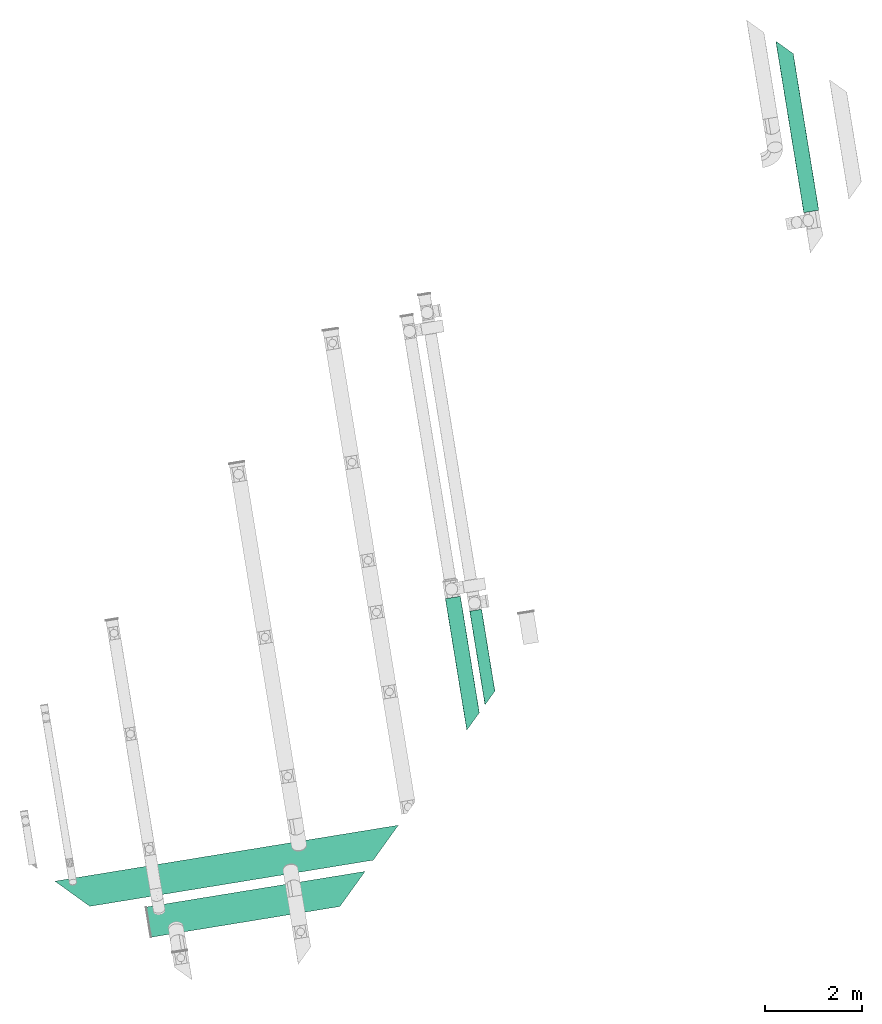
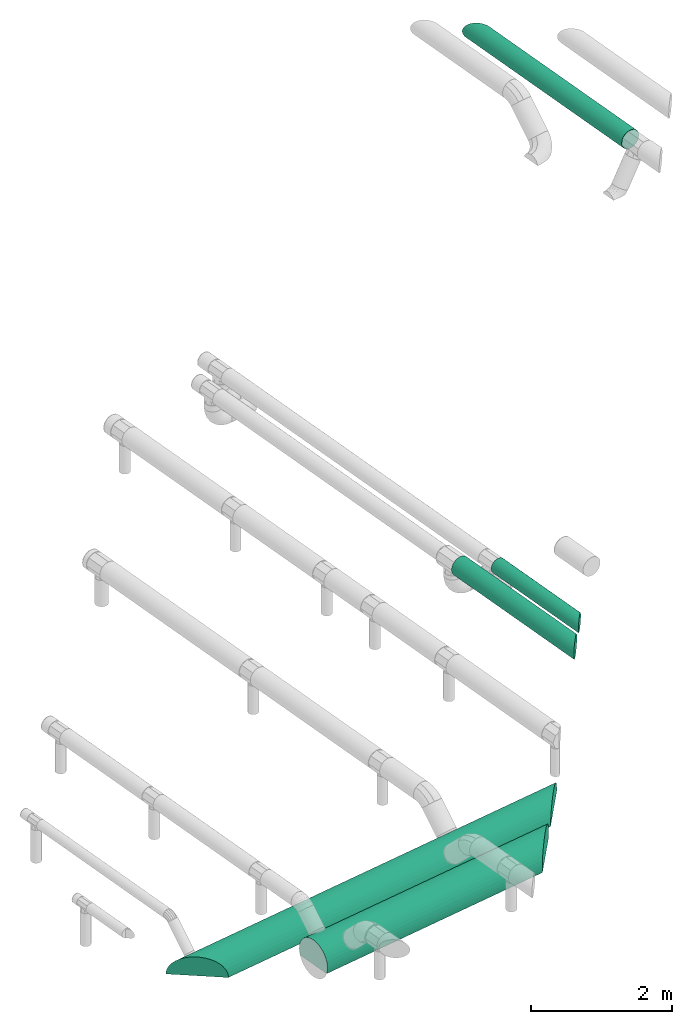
# One storey, part 7 of 15: 5 flow segments.
"""IFC2X3 building model written with IfcOpenShell, lengths in millimetres."""

from ifc_helpers import new_model, entity, si_unit, converted_unit, derived_unit, direction, frame, origin, origin_with_axes, place, context, subcontext, project, spatial, faceted_brep, material, type_object, element, save


model = new_model("IFC2X3")

# Units and contexts
model_context = context("Model", 3, precision=0.01, world=origin(), true_north=direction((6.12323399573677e-17, 1.0)))
plan_context = context("Plan", 3, precision=1e-05, world=origin_with_axes())
body_context = subcontext(model_context, "Body", "Model", "MODEL_VIEW")
ifc_project = project(units=[converted_unit("PLANEANGLEUNIT", "DEGREE", entity("IfcPositiveLengthMeasure", 0.0174532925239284), si_unit("PLANEANGLEUNIT", "RADIAN"), dimensions=[0, 0, 0, 0, 0, 0, 0]), si_unit("AREAUNIT", "SQUARE_METRE"), si_unit("LENGTHUNIT", "METRE", prefix="MILLI"), si_unit("MASSUNIT", "GRAM", prefix="KILO"), si_unit("POWERUNIT", "WATT"), si_unit("PRESSUREUNIT", "PASCAL", prefix="KILO"), si_unit("FORCEUNIT", "NEWTON", prefix="KILO"), si_unit("ELECTRICVOLTAGEUNIT", "VOLT"), si_unit("ELECTRICCURRENTUNIT", "AMPERE"), si_unit("THERMODYNAMICTEMPERATUREUNIT", "DEGREE_CELSIUS"), si_unit("TIMEUNIT", "SECOND"), si_unit("VOLUMEUNIT", "CUBIC_METRE"), derived_unit("LINEARVELOCITYUNIT", [(si_unit("LENGTHUNIT", "METRE"), 1), (si_unit("TIMEUNIT", "SECOND"), -1)]), derived_unit("VOLUMETRICFLOWRATEUNIT", [(si_unit("VOLUMEUNIT", "CUBIC_METRE"), 1), (si_unit("TIMEUNIT", "SECOND"), -1)]), derived_unit("THERMALTRANSMITTANCEUNIT", [(si_unit("POWERUNIT", "WATT"), 1), (si_unit("THERMODYNAMICTEMPERATUREUNIT", "KELVIN"), -1), (si_unit("AREAUNIT", "SQUARE_METRE"), -1)]), derived_unit("SOUNDPRESSUREUNIT", [(si_unit("PRESSUREUNIT", "PASCAL"), 1)])], contexts=[model_context, plan_context])

# Site, building, storey
site_placement = place(None, frame((5.09380697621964e-08, 5.80416781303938e-08, 0.0), z_axis=(0.0, 0.0, 1.0), x_axis=(-0.160806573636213, 0.986985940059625, 0.0)))
site = spatial("IfcSite", under=ifc_project, at=site_placement, Name="Default", CompositionType="ELEMENT")
building_placement = place(site_placement, frame((0.0, 0.0, 0.0), z_axis=(0.0, 0.0, 1.0), x_axis=(1.0, -2.77555756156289e-17, 0.0)))
building = spatial("IfcBuilding", under=site, at=building_placement, Name="Bygning (endres i Project Information)", CompositionType="ELEMENT")
storey_placement = place(building_placement, frame((0.0, 0.0, 51360.0000000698), z_axis=(0.0, 0.0, 1.0), x_axis=(1.0, -2.77555756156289e-17, 0.0)))
storey = spatial("IfcBuildingStorey", under=building, at=storey_placement, Name="H01-Nivå D+0,36", CompositionType="ELEMENT", Elevation=51360.0000000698)

# Flow segments
ifc_material = material(Name="3601.001 Tilluft")
duct_segment_type = type_object("IfcDuctSegmentType", Name="Round Duct:Sirkulær kanal", PredefinedType="NOTDEFINED", material=ifc_material)
flow_segment_1_placement = place(storey_placement, frame((0.0, 0.0, 0.0), z_axis=(0.0, 0.0, 1.0), x_axis=(1.0, -2.77555756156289e-17, 0.0)))
element("IfcFlowSegment", 1, at=flow_segment_1_placement, inside=storey, type_object=duct_segment_type, Name="Round Duct:Sirkulær kanal", ObjectType="Round Duct:Sirkulær kanal", context=body_context, shape_type="Brep", body=[
    faceted_brep([(1010147.91119408, -355524.730863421, 3772.65041197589), (1010150.30397299, -355522.338084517, 3800.0), (1006572.35159129, -355522.338084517, 3800.0), (1006572.35159129, -355524.730863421, 3772.65041197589), (1010147.91119408, -355524.730863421, 3827.34958802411), (1006572.35159129, -355524.730863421, 3827.34958802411), (1010140.80556075, -355531.836496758, 3853.86817265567), (1006572.35159129, -355531.836496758, 3853.86817265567), (1010129.20297405, -355543.439083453, 3878.7500001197), (1006572.35159129, -355543.439083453, 3878.7500001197), (1010113.45597272, -355559.186084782, 3901.23904867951), (1006572.35159129, -355559.186084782, 3901.23904867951), (1010094.04302143, -355578.599036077, 3920.65199997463), (1006572.35159129, -355578.599036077, 3920.65199997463), (1010071.55397287, -355601.088084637, 3936.39900130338), (1006572.35159129, -355601.088084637, 3936.39900130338), (1010046.6721454, -355625.969912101, 3948.00158799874), (1006572.35159129, -355625.969912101, 3948.00158799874), (1010020.15356077, -355652.488496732, 3955.10722133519), (1006572.35159129, -355652.488496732, 3955.10722133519), (1009992.80397275, -355679.838084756, 3957.5000002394), (1006572.35159129, -355679.838084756, 3957.5000002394), (1009965.45438472, -355707.18767278, 3955.10722133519), (1006572.35159129, -355707.18767278, 3955.10722133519), (1009938.93580009, -355733.706257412, 3948.00158799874), (1006572.35159129, -355733.706257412, 3948.00158799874), (1009914.05397263, -355758.588084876, 3936.39900130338), (1006572.35159129, -355758.588084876, 3936.39900130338), (1009891.56492407, -355781.077133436, 3920.65199997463), (1006572.35159129, -355781.077133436, 3920.65199997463), (1009872.15197277, -355800.490084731, 3901.23904867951), (1006572.35159129, -355800.490084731, 3901.23904867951), (1009856.40497144, -355816.23708606, 3878.7500001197), (1006572.35159129, -355816.23708606, 3878.7500001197), (1009844.80238475, -355827.839672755, 3853.86817265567), (1006572.35159129, -355827.839672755, 3853.86817265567), (1009837.69675141, -355834.945306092, 3827.34958802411), (1006572.35159129, -355834.945306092, 3827.34958802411), (1009835.30397251, -355837.338084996, 3800.0), (1006572.35159129, -355837.338084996, 3800.0), (1009837.69675141, -355834.945306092, 3772.65041197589), (1006572.35159129, -355834.945306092, 3772.65041197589), (1009844.80238475, -355827.839672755, 3746.13182734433), (1006572.35159129, -355827.839672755, 3746.13182734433), (1009856.40497144, -355816.23708606, 3721.2499998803), (1006572.35159129, -355816.23708606, 3721.2499998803), (1009872.15197277, -355800.490084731, 3698.76095132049), (1006572.35159129, -355800.490084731, 3698.76095132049), (1009891.56492407, -355781.077133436, 3679.34800002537), (1006572.35159129, -355781.077133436, 3679.34800002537), (1009914.05397263, -355758.588084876, 3663.60099869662), (1006572.35159129, -355758.588084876, 3663.60099869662), (1009938.93580009, -355733.706257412, 3651.99841200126), (1006572.35159129, -355733.706257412, 3651.99841200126), (1009965.45438472, -355707.18767278, 3644.89277866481), (1006572.35159129, -355707.18767278, 3644.89277866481), (1009992.80397275, -355679.838084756, 3642.4999997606), (1006572.35159129, -355679.838084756, 3642.4999997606), (1010020.15356077, -355652.488496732, 3644.89277866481), (1006572.35159129, -355652.488496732, 3644.89277866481), (1010046.6721454, -355625.969912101, 3651.99841200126), (1006572.35159129, -355625.969912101, 3651.99841200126), (1010071.55397287, -355601.088084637, 3663.60099869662), (1006572.35159129, -355601.088084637, 3663.60099869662), (1010094.04302143, -355578.599036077, 3679.34800002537), (1006572.35159129, -355578.599036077, 3679.34800002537), (1010113.45597272, -355559.186084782, 3698.76095132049), (1006572.35159129, -355559.186084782, 3698.76095132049), (1010129.20297405, -355543.439083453, 3721.2499998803), (1006572.35159129, -355543.439083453, 3721.2499998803), (1010140.80556074, -355531.836496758, 3746.13182734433), (1006572.35159129, -355531.836496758, 3746.13182734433)], [[[0, 1, 2, 3]], [[1, 4, 5, 2]], [[4, 6, 7, 5]], [[6, 8, 9, 7]], [[8, 10, 11, 9]], [[10, 12, 13, 11]], [[12, 14, 15, 13]], [[14, 16, 17, 15]], [[16, 18, 19, 17]], [[18, 20, 21, 19]], [[20, 22, 23, 21]], [[22, 24, 25, 23]], [[24, 26, 27, 25]], [[26, 28, 29, 27]], [[28, 30, 31, 29]], [[30, 32, 33, 31]], [[32, 34, 35, 33]], [[34, 36, 37, 35]], [[36, 38, 39, 37]], [[38, 40, 41, 39]], [[40, 42, 43, 41]], [[42, 44, 45, 43]], [[44, 46, 47, 45]], [[46, 48, 49, 47]], [[48, 50, 51, 49]], [[50, 52, 53, 51]], [[52, 54, 55, 53]], [[54, 56, 57, 55]], [[56, 58, 59, 57]], [[58, 60, 61, 59]], [[60, 62, 63, 61]], [[62, 64, 65, 63]], [[64, 66, 67, 65]], [[66, 68, 69, 67]], [[68, 70, 71, 69]], [[70, 0, 3, 71]], [[3, 2, 5, 7, 9, 11, 13, 15, 17, 19, 21, 23, 25, 27, 29, 31, 33, 35, 37, 39, 41, 43, 45, 47, 49, 51, 53, 55, 57, 59, 61, 63, 65, 67, 69, 71]], [[70, 68, 66, 64, 62, 60, 58, 56, 54, 52, 50, 48, 46, 44, 42, 40, 38, 36, 34, 32, 30, 28, 26, 24, 22, 20, 18, 16, 14, 12, 10, 8, 6, 4, 1, 0]]], orient=[[False], [False], [False], [False], [False], [False], [False], [False], [False], [False], [False], [False], [False], [False], [False], [False], [False], [False], [False], [False], [False], [False], [False], [False], [False], [False], [False], [False], [False], [False], [False], [False], [False], [False], [False], [False], [False], [False]]),
])
flow_segment_2_placement = place(storey_placement, frame((0.0, 0.0, 0.0), z_axis=(0.0, 0.0, 1.0), x_axis=(1.0, -2.77555756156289e-17, 0.0)))
element("IfcFlowSegment", 2, at=flow_segment_2_placement, inside=storey, type_object=duct_segment_type, Name="Round Duct:Sirkulær kanal", ObjectType="Round Duct:Sirkulær kanal", context=body_context, shape_type="Brep", body=[
    faceted_brep([(994846.480346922, -344637.271731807, 3177.45408044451), (994846.480346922, -344637.271731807, 3139.99999993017), (994846.480346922, -338729.655559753, 3139.99999993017), (994846.480346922, -338729.655559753, 3177.45408044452), (994856.015041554, -338720.12086512, 3231.52802076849), (994856.015041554, -344646.806426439, 3231.52802076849), (994874.794723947, -338701.341182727, 3283.12477408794), (994874.794723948, -344665.586108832, 3283.12477408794), (994902.248782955, -338673.88712372, 3330.67659916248), (994902.248782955, -344693.040167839, 3330.67659916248), (994937.543040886, -338638.592865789, 3372.7386578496), (994937.543040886, -344728.33442577, 3372.7386578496), (994979.605099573, -338596.530807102, 3408.03291578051), (994979.605099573, -344770.396484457, 3408.03291578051), (995027.156924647, -338548.978982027, 3435.48697478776), (995027.156924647, -344817.948309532, 3435.48697478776), (995078.753677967, -338497.382228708, 3454.26665718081), (995078.753677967, -344869.545062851, 3454.26665718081), (995132.827618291, -338443.308288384, 3463.80135181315), (995132.827618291, -344923.619003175, 3463.80135181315), (995187.735736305, -338388.400170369, 3463.80135181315), (995187.735736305, -344978.52712119, 3463.80135181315), (995241.809676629, -338334.326230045, 3454.26665718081), (995241.809676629, -345032.601061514, 3454.26665718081), (995293.406429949, -338282.729476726, 3435.48697478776), (995293.406429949, -345084.197814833, 3435.48697478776), (995340.958255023, -338235.177651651, 3408.03291578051), (995340.958255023, -345131.749639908, 3408.03291578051), (995383.02031371, -338193.115592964, 3372.7386578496), (995383.02031371, -345173.811698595, 3372.7386578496), (995418.314571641, -338157.821335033, 3330.67659916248), (995418.314571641, -345209.105956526, 3330.67659916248), (995445.768630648, -338130.367276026, 3283.12477408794), (995445.768630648, -345236.560015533, 3283.12477408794), (995464.548313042, -338111.587593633, 3231.52802076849), (995464.548313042, -345255.339697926, 3231.52802076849), (995474.083007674, -338102.052899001, 3177.45408044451), (995474.083007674, -345264.874392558, 3177.45408044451), (995474.083007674, -338102.052899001, 3139.99999993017), (995474.083007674, -345264.874392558, 3139.99999993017)], [[[0, 1, 2, 3]], [[3, 4, 5, 0]], [[4, 6, 7, 5]], [[6, 8, 9, 7]], [[8, 10, 11, 9]], [[10, 12, 13, 11]], [[12, 14, 15, 13]], [[14, 16, 17, 15]], [[16, 18, 19, 17]], [[18, 20, 21, 19]], [[20, 22, 23, 21]], [[22, 24, 25, 23]], [[24, 26, 27, 25]], [[26, 28, 29, 27]], [[28, 30, 31, 29]], [[30, 32, 33, 31]], [[32, 34, 35, 33]], [[34, 36, 37, 35]], [[36, 38, 39, 37]], [[38, 36, 34, 32, 30, 28, 26, 24, 22, 20, 18, 16, 14, 12, 10, 8, 6, 4, 3, 2]], [[1, 0, 5, 7, 9, 11, 13, 15, 17, 19, 21, 23, 25, 27, 29, 31, 33, 35, 37, 39]], [[39, 38, 2, 1]]], orient=[[False], [False], [False], [False], [False], [False], [False], [False], [False], [False], [False], [False], [False], [False], [False], [False], [False], [False], [False], [False], [False], [False]]),
])
flow_segment_3_placement = place(storey_placement, frame((0.0, 0.0, 0.0), z_axis=(0.0, 0.0, 1.0), x_axis=(1.0, -2.77555756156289e-17, 0.0)))
element("IfcFlowSegment", 3, at=flow_segment_3_placement, inside=storey, type_object=duct_segment_type, Name="Round Duct:Sirkulær kanal", ObjectType="Round Duct:Sirkulær kanal", context=body_context, shape_type="Brep", body=[
    faceted_brep([(997175.80933892, -346966.600723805, 3804.29489743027), (997178.202117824, -346968.993502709, 3776.94530940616), (999918.187354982, -346968.993502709, 3776.94530940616), (999918.187354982, -346966.600723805, 3804.29489743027), (997178.202117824, -346968.993502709, 3831.64448545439), (999918.187354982, -346968.993502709, 3831.64448545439), (997185.307751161, -346976.099136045, 3858.16307008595), (999918.187354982, -346976.099136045, 3858.16307008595), (997196.910337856, -346987.701722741, 3883.04489754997), (999918.187354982, -346987.701722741, 3883.04489754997), (997212.657339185, -347003.448724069, 3905.53394610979), (999918.187354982, -347003.448724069, 3905.53394610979), (997232.07029048, -347022.861675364, 3924.9468974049), (999918.187354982, -347022.861675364, 3924.9468974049), (997254.55933904, -347045.350723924, 3940.69389873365), (999918.187354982, -347045.350723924, 3940.69389873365), (997279.441166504, -347070.232551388, 3952.29648542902), (999918.187354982, -347070.232551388, 3952.29648542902), (997305.959751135, -347096.75113602, 3959.40211876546), (999918.187354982, -347096.75113602, 3959.40211876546), (997333.309339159, -347124.100724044, 3961.79489766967), (999918.187354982, -347124.100724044, 3961.79489766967), (997360.658927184, -347151.450312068, 3959.40211876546), (999918.187354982, -347151.450312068, 3959.40211876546), (997387.177511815, -347177.9688967, 3952.29648542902), (999918.187354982, -347177.9688967, 3952.29648542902), (997412.059339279, -347202.850724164, 3940.69389873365), (999918.187354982, -347202.850724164, 3940.69389873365), (997434.548387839, -347225.339772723, 3924.9468974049), (999918.187354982, -347225.339772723, 3924.9468974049), (997453.961339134, -347244.752724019, 3905.53394610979), (999918.187354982, -347244.752724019, 3905.53394610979), (997469.708340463, -347260.499725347, 3883.04489754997), (999918.187354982, -347260.499725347, 3883.04489754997), (997481.310927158, -347272.102312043, 3858.16307008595), (999918.187354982, -347272.102312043, 3858.16307008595), (997488.416560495, -347279.207945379, 3831.64448545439), (999918.187354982, -347279.207945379, 3831.64448545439), (997490.809339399, -347281.600724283, 3804.29489743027), (999918.187354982, -347281.600724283, 3804.29489743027), (997488.416560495, -347279.207945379, 3776.94530940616), (999918.187354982, -347279.207945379, 3776.94530940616), (997481.310927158, -347272.102312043, 3750.4267247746), (999918.187354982, -347272.102312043, 3750.4267247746), (997469.708340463, -347260.499725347, 3725.54489731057), (999918.187354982, -347260.499725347, 3725.54489731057), (997453.961339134, -347244.752724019, 3703.05584875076), (999918.187354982, -347244.752724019, 3703.05584875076), (997434.548387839, -347225.339772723, 3683.64289745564), (999918.187354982, -347225.339772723, 3683.64289745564), (997412.059339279, -347202.850724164, 3667.8958961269), (999918.187354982, -347202.850724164, 3667.8958961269), (997387.177511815, -347177.9688967, 3656.29330943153), (999918.187354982, -347177.9688967, 3656.29330943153), (997360.658927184, -347151.450312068, 3649.18767609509), (999918.187354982, -347151.450312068, 3649.18767609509), (997333.309339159, -347124.100724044, 3646.79489719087), (999918.187354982, -347124.100724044, 3646.79489719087), (997305.959751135, -347096.75113602, 3649.18767609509), (999918.187354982, -347096.75113602, 3649.18767609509), (997279.441166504, -347070.232551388, 3656.29330943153), (999918.187354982, -347070.232551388, 3656.29330943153), (997254.55933904, -347045.350723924, 3667.8958961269), (999918.187354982, -347045.350723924, 3667.8958961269), (997232.07029048, -347022.861675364, 3683.64289745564), (999918.187354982, -347022.861675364, 3683.64289745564), (997212.657339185, -347003.448724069, 3703.05584875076), (999918.187354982, -347003.448724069, 3703.05584875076), (997196.910337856, -346987.701722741, 3725.54489731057), (999918.187354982, -346987.701722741, 3725.54489731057), (997185.307751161, -346976.099136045, 3750.4267247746), (999918.187354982, -346976.099136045, 3750.4267247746)], [[[0, 1, 2, 3]], [[4, 0, 3, 5]], [[6, 4, 5, 7]], [[8, 6, 7, 9]], [[10, 8, 9, 11]], [[12, 10, 11, 13]], [[14, 12, 13, 15]], [[16, 14, 15, 17]], [[18, 16, 17, 19]], [[20, 18, 19, 21]], [[22, 20, 21, 23]], [[24, 22, 23, 25]], [[26, 24, 25, 27]], [[28, 26, 27, 29]], [[30, 28, 29, 31]], [[32, 30, 31, 33]], [[34, 32, 33, 35]], [[36, 34, 35, 37]], [[38, 36, 37, 39]], [[40, 38, 39, 41]], [[42, 40, 41, 43]], [[44, 42, 43, 45]], [[46, 44, 45, 47]], [[48, 46, 47, 49]], [[50, 48, 49, 51]], [[52, 50, 51, 53]], [[54, 52, 53, 55]], [[56, 54, 55, 57]], [[58, 56, 57, 59]], [[60, 58, 59, 61]], [[62, 60, 61, 63]], [[64, 62, 63, 65]], [[66, 64, 65, 67]], [[68, 66, 67, 69]], [[70, 68, 69, 71]], [[1, 70, 71, 2]], [[3, 2, 71, 69, 67, 65, 63, 61, 59, 57, 55, 53, 51, 49, 47, 45, 43, 41, 39, 37, 35, 33, 31, 29, 27, 25, 23, 21, 19, 17, 15, 13, 11, 9, 7, 5]], [[4, 6, 8, 10, 12, 14, 16, 18, 20, 22, 24, 26, 28, 30, 32, 34, 36, 38, 40, 42, 44, 46, 48, 50, 52, 54, 56, 58, 60, 62, 64, 66, 68, 70, 1, 0]]], orient=[[False], [False], [False], [False], [False], [False], [False], [False], [False], [False], [False], [False], [False], [False], [False], [False], [False], [False], [False], [False], [False], [False], [False], [False], [False], [False], [False], [False], [False], [False], [False], [False], [False], [False], [False], [False], [False], [False]]),
])
flow_segment_4_placement = place(storey_placement, frame((0.0, 0.0, 0.0), z_axis=(0.0, 0.0, 1.0), x_axis=(1.0, -2.77555756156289e-17, 0.0)))
element("IfcFlowSegment", 4, at=flow_segment_4_placement, inside=storey, type_object=duct_segment_type, Name="Round Duct:Sirkulær kanal", ObjectType="Round Duct:Sirkulær kanal", context=body_context, shape_type="Brep", body=[
    faceted_brep([(994016.17192807, -343806.963312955, 3250.00000038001), (994020.957485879, -343811.748870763, 3195.30082433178), (994020.957485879, -339870.486591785, 3195.30082433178), (994016.17192807, -339870.486591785, 3250.00000038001), (994020.957485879, -343811.748870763, 3304.69917642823), (994020.957485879, -339870.486591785, 3304.69917642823), (994035.168752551, -343825.960137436, 3357.73634569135), (994035.168752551, -339870.486591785, 3357.73634569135), (994058.373925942, -343849.165310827, 3407.50000061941), (994058.373925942, -339870.486591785, 3407.50000061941), (994089.8679286, -343880.659313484, 3452.47809773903), (994089.8679286, -339870.486591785, 3452.47809773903), (994128.69383119, -343919.485216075, 3491.30400032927), (994128.69383119, -339870.486591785, 3491.30400032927), (994173.67192831, -343964.463313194, 3522.79800298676), (994173.67192831, -339870.486591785, 3522.79800298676), (994223.435583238, -344014.226968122, 3546.00317637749), (994223.435583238, -339870.486591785, 3546.00317637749), (994276.472752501, -344067.264137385, 3560.21444305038), (994276.472752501, -339870.486591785, 3560.21444305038), (994331.171928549, -344121.963313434, 3565.00000085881), (994331.171928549, -339870.486591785, 3565.00000085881), (994385.871104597, -344176.662489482, 3560.21444305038), (994385.871104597, -339870.486591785, 3560.21444305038), (994438.90827386, -344229.699658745, 3546.00317637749), (994438.90827386, -339870.486591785, 3546.00317637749), (994488.671928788, -344279.463313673, 3522.79800298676), (994488.671928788, -339870.486591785, 3522.79800298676), (994533.650025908, -344324.441410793, 3491.30400032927), (994533.650025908, -339870.486591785, 3491.30400032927), (994572.475928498, -344363.267313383, 3452.47809773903), (994572.475928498, -339870.486591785, 3452.47809773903), (994603.969931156, -344394.76131604, 3407.50000061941), (994603.969931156, -339870.486591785, 3407.50000061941), (994627.175104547, -344417.966489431, 3357.73634569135), (994627.175104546, -339870.486591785, 3357.73634569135), (994641.386371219, -344432.177756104, 3304.69917642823), (994641.386371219, -339870.486591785, 3304.69917642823), (994646.171929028, -344436.963313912, 3250.00000038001), (994646.171929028, -339870.486591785, 3250.00000038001), (994641.386371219, -344432.177756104, 3195.30082433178), (994641.386371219, -339870.486591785, 3195.30082433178), (994627.175104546, -344417.966489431, 3142.26365506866), (994627.175104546, -339870.486591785, 3142.26365506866), (994626.11954482, -339870.486591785, 3139.99999993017), (994626.56855998, -344417.359944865, 3139.99999993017), (994035.168752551, -343825.960137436, 3142.26365506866), (994036.224312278, -343827.015697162, 3139.99999993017), (994036.224312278, -339870.486591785, 3139.99999993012), (994035.168752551, -339870.486591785, 3142.26365506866), (994626.11954482, -344416.910929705, 3139.99999993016)], [[[0, 1, 2, 3]], [[4, 0, 3, 5]], [[6, 4, 5, 7]], [[8, 6, 7, 9]], [[10, 8, 9, 11]], [[12, 10, 11, 13]], [[14, 12, 13, 15]], [[16, 14, 15, 17]], [[18, 16, 17, 19]], [[20, 18, 19, 21]], [[22, 20, 21, 23]], [[24, 22, 23, 25]], [[26, 24, 25, 27]], [[28, 26, 27, 29]], [[30, 28, 29, 31]], [[32, 30, 31, 33]], [[34, 32, 33, 35]], [[36, 34, 35, 37]], [[38, 36, 37, 39]], [[40, 38, 39, 41]], [[42, 40, 41, 43]], [[44, 45, 42, 43]], [[46, 47, 48, 49]], [[1, 46, 49, 2]], [[48, 44, 43, 41, 39, 37, 35, 33, 31, 29, 27, 25, 23, 21, 19, 17, 15, 13, 11, 9, 7, 5, 3, 2, 49]], [[47, 46, 1, 0, 4, 6, 8, 10, 12, 14, 16, 18, 20, 22, 24, 26, 28, 30, 32, 34, 36, 38, 40, 42, 50]], [[50, 44, 48, 47]]], orient=[[False], [False], [False], [False], [False], [False], [False], [False], [False], [False], [False], [False], [False], [False], [False], [False], [False], [False], [False], [False], [False], [False], [False], [False], [False], [False], [False]]),
])
flow_segment_5_placement = place(storey_placement, frame((0.0, 0.0, 0.0), z_axis=(0.0, 0.0, 1.0), x_axis=(1.0, -2.77555756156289e-17, 0.0)))
element("IfcFlowSegment", 5, at=flow_segment_5_placement, inside=storey, type_object=duct_segment_type, Name="Round Duct:Sirkulær kanal", ObjectType="Round Duct:Sirkulær kanal", context=body_context, shape_type="Brep", body=[
    faceted_brep([(997628.884553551, -347419.675938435, 3804.40000000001), (997630.783584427, -347421.574969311, 3782.69397775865), (999583.859892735, -347421.574969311, 3782.69397775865), (999583.859892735, -347419.675938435, 3804.40000000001), (997630.783584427, -347421.574969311, 3826.10602224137), (999583.859892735, -347421.574969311, 3826.10602224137), (997636.422975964, -347427.214360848, 3847.1525179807), (999583.859892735, -347427.214360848, 3847.1525179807), (997645.631378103, -347436.422762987, 3866.90000009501), (999583.859892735, -347436.422762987, 3866.90000009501), (997658.128998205, -347448.92038309, 3884.74845133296), (999583.859892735, -347448.92038309, 3884.74845133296), (997673.536102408, -347464.327487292, 3900.15555553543), (999583.859892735, -347464.327487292, 3900.15555553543), (997691.384553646, -347482.17593853, 3912.65317563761), (999583.859892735, -347482.17593853, 3912.65317563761), (997711.13203576, -347501.923420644, 3921.86157777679), (999583.859892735, -347501.923420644, 3921.86157777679), (997732.178531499, -347522.969916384, 3927.50096931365), (999583.859892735, -347522.969916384, 3927.50096931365), (997753.88455374, -347544.675938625, 3929.40000019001), (999583.859892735, -347544.675938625, 3929.40000019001), (997775.590575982, -347566.381960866, 3927.50096931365), (999583.859892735, -347566.381960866, 3927.50096931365), (997796.637071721, -347587.428456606, 3921.86157777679), (999583.859892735, -347587.428456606, 3921.86157777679), (997816.384553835, -347607.17593872, 3912.65317563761), (999583.859892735, -347607.17593872, 3912.65317563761), (997834.233005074, -347625.024389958, 3900.15555553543), (999583.859892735, -347625.024389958, 3900.15555553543), (997849.640109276, -347640.43149416, 3884.74845133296), (999583.859892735, -347640.43149416, 3884.74845133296), (997862.137729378, -347652.929114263, 3866.90000009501), (999583.859892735, -347652.929114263, 3866.90000009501), (997871.346131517, -347662.137516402, 3847.1525179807), (999583.859892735, -347662.137516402, 3847.1525179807), (997876.985523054, -347667.776907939, 3826.10602224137), (999583.859892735, -347667.776907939, 3826.10602224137), (997878.88455393, -347669.675938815, 3804.40000000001), (999583.859892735, -347669.675938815, 3804.40000000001), (997876.985523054, -347667.776907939, 3782.69397775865), (999583.859892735, -347667.776907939, 3782.69397775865), (997871.346131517, -347662.137516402, 3761.64748201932), (999583.859892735, -347662.137516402, 3761.64748201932), (997862.137729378, -347652.929114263, 3741.89999990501), (999583.859892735, -347652.929114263, 3741.89999990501), (997849.640109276, -347640.43149416, 3724.05154866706), (999583.859892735, -347640.43149416, 3724.05154866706), (997834.233005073, -347625.024389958, 3708.64444446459), (999583.859892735, -347625.024389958, 3708.64444446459), (997816.384553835, -347607.17593872, 3696.14682436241), (999583.859892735, -347607.17593872, 3696.14682436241), (997796.637071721, -347587.428456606, 3686.93842222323), (999583.859892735, -347587.428456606, 3686.93842222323), (997775.590575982, -347566.381960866, 3681.29903068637), (999583.859892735, -347566.381960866, 3681.29903068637), (997753.88455374, -347544.675938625, 3679.39999981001), (999583.859892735, -347544.675938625, 3679.39999981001), (997732.178531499, -347522.969916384, 3681.29903068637), (999583.859892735, -347522.969916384, 3681.29903068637), (997711.13203576, -347501.923420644, 3686.93842222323), (999583.859892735, -347501.923420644, 3686.93842222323), (997691.384553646, -347482.17593853, 3696.14682436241), (999583.859892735, -347482.17593853, 3696.14682436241), (997673.536102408, -347464.327487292, 3708.64444446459), (999583.859892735, -347464.327487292, 3708.64444446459), (997658.128998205, -347448.92038309, 3724.05154866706), (999583.859892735, -347448.92038309, 3724.05154866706), (997645.631378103, -347436.422762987, 3741.89999990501), (999583.859892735, -347436.422762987, 3741.89999990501), (997636.422975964, -347427.214360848, 3761.64748201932), (999583.859892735, -347427.214360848, 3761.64748201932)], [[[0, 1, 2, 3]], [[4, 0, 3, 5]], [[6, 4, 5, 7]], [[8, 6, 7, 9]], [[10, 8, 9, 11]], [[12, 10, 11, 13]], [[14, 12, 13, 15]], [[16, 14, 15, 17]], [[18, 16, 17, 19]], [[20, 18, 19, 21]], [[22, 20, 21, 23]], [[24, 22, 23, 25]], [[26, 24, 25, 27]], [[28, 26, 27, 29]], [[30, 28, 29, 31]], [[32, 30, 31, 33]], [[34, 32, 33, 35]], [[36, 34, 35, 37]], [[38, 36, 37, 39]], [[40, 38, 39, 41]], [[42, 40, 41, 43]], [[44, 42, 43, 45]], [[46, 44, 45, 47]], [[48, 46, 47, 49]], [[50, 48, 49, 51]], [[52, 50, 51, 53]], [[54, 52, 53, 55]], [[56, 54, 55, 57]], [[58, 56, 57, 59]], [[60, 58, 59, 61]], [[62, 60, 61, 63]], [[64, 62, 63, 65]], [[66, 64, 65, 67]], [[68, 66, 67, 69]], [[70, 68, 69, 71]], [[1, 70, 71, 2]], [[3, 2, 71, 69, 67, 65, 63, 61, 59, 57, 55, 53, 51, 49, 47, 45, 43, 41, 39, 37, 35, 33, 31, 29, 27, 25, 23, 21, 19, 17, 15, 13, 11, 9, 7, 5]], [[4, 6, 8, 10, 12, 14, 16, 18, 20, 22, 24, 26, 28, 30, 32, 34, 36, 38, 40, 42, 44, 46, 48, 50, 52, 54, 56, 58, 60, 62, 64, 66, 68, 70, 1, 0]]], orient=[[False], [False], [False], [False], [False], [False], [False], [False], [False], [False], [False], [False], [False], [False], [False], [False], [False], [False], [False], [False], [False], [False], [False], [False], [False], [False], [False], [False], [False], [False], [False], [False], [False], [False], [False], [False], [False], [False]]),
])

save(model, "model.ifc")
